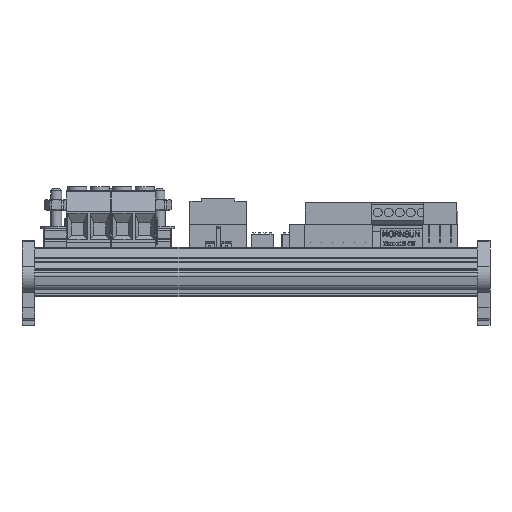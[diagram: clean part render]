
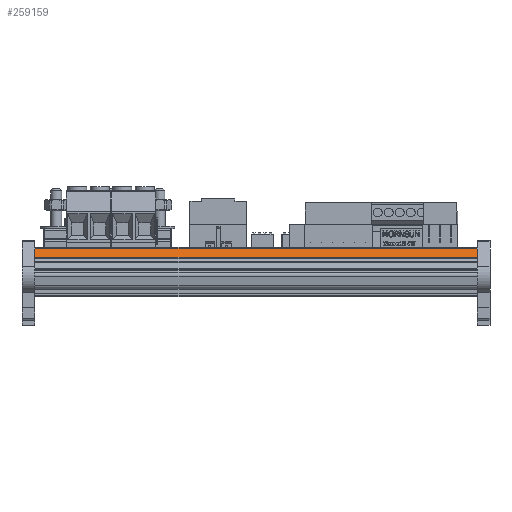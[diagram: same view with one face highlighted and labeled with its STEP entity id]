
A CAD part, front view. The second image highlights one B-rep face of the part: STEP entity #259159.
In plain terms, the highlighted free-form (B-spline) face has degree [1, 1] with [2, 2] control points.
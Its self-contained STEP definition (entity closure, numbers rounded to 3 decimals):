
#249476 = B_SPLINE_SURFACE_WITH_KNOTS('',1,1,(
    (#249477,#249478)
    ,(#249479,#249480
    )),.UNSPECIFIED.,.F.,.F.,.F.,(2,2),(2,2),(-112.497,
    8.897),(-17.3,5.1),.PIECEWISE_BEZIER_KNOTS.);
#249477 = CARTESIAN_POINT('',(60.697,-0.55,104.823));
#249478 = CARTESIAN_POINT('',(60.697,21.85,104.823));
#249479 = CARTESIAN_POINT('',(-60.697,-0.55,104.823));
#249480 = CARTESIAN_POINT('',(-60.697,21.85,104.823));
#249530 = B_SPLINE_SURFACE_WITH_KNOTS('',1,1,(
    (#249531,#249532)
    ,(#249533,#249534
    )),.UNSPECIFIED.,.F.,.F.,.F.,(2,2),(2,2),(-112.497,
    8.897),(-17.3,5.1),.PIECEWISE_BEZIER_KNOTS.);
#249531 = CARTESIAN_POINT('',(60.697,-0.55,-103.146));
#249532 = CARTESIAN_POINT('',(60.697,21.85,-103.146));
#249533 = CARTESIAN_POINT('',(-60.697,-0.55,-103.146));
#249534 = CARTESIAN_POINT('',(-60.697,21.85,-103.146));
#251667 = VERTEX_POINT('',#251668);
#251668 = CARTESIAN_POINT('',(55.318,21.516,
    -103.146));
#251688 = ( BOUNDED_SURFACE() B_SPLINE_SURFACE(2,1,(
    (#251689,#251690)
    ,(#251691,#251692)
    ,(#251693,#251694
)),.UNSPECIFIED.,.F.,.F.,.F.) B_SPLINE_SURFACE_WITH_KNOTS((3,3),(2,2),(
    1.569,2.802),(-2.,60.),.PIECEWISE_BEZIER_KNOTS.) 
GEOMETRIC_REPRESENTATION_ITEM() RATIONAL_B_SPLINE_SURFACE((
    (1.,1.)
    ,(0.816,0.816)
,(1.,1.))) REPRESENTATION_ITEM('') SURFACE() );
#251689 = CARTESIAN_POINT('',(54.845,21.849,104.823
    ));
#251690 = CARTESIAN_POINT('',(54.845,21.849,
    -103.146));
#251691 = CARTESIAN_POINT('',(55.2,21.85,104.823));
#251692 = CARTESIAN_POINT('',(55.2,21.85,-103.146));
#251693 = CARTESIAN_POINT('',(55.318,21.516,104.823
    ));
#251694 = CARTESIAN_POINT('',(55.318,21.516,
    -103.146));
#251702 = EDGE_CURVE('',#251667,#251703,#251705,.T.);
#251703 = VERTEX_POINT('',#251704);
#251704 = CARTESIAN_POINT('',(56.765,17.416,
    -103.146));
#251705 = SURFACE_CURVE('',#251706,(#251709,#251716),.PCURVE_S1.);
#251706 = B_SPLINE_CURVE_WITH_KNOTS('',1,(#251707,#251708),
  .UNSPECIFIED.,.F.,.F.,(2,2),(-5.054,-0.707),
  .PIECEWISE_BEZIER_KNOTS.);
#251707 = CARTESIAN_POINT('',(55.318,21.516,
    -103.146));
#251708 = CARTESIAN_POINT('',(56.765,17.416,
    -103.146));
#251709 = PCURVE('',#249530,#251710);
#251710 = DEFINITIONAL_REPRESENTATION('',(#251711),#251715);
#251711 = B_SPLINE_CURVE_WITH_KNOTS('',2,(#251712,#251713,#251714),
  .UNSPECIFIED.,.F.,.F.,(3,3),(-5.054,-0.707),
  .PIECEWISE_BEZIER_KNOTS.);
#251712 = CARTESIAN_POINT('',(-107.118,4.766));
#251713 = CARTESIAN_POINT('',(-107.841,2.716));
#251714 = CARTESIAN_POINT('',(-108.565,0.666));
#251715 = ( GEOMETRIC_REPRESENTATION_CONTEXT(2) 
PARAMETRIC_REPRESENTATION_CONTEXT() REPRESENTATION_CONTEXT('2D SPACE',''
  ) );
#251716 = PCURVE('',#251717,#251722);
#251717 = B_SPLINE_SURFACE_WITH_KNOTS('',1,1,(
    (#251718,#251719)
    ,(#251720,#251721
    )),.UNSPECIFIED.,.F.,.F.,.F.,(2,2),(2,2),(-5.054,
    -0.707),(-2.,60.),.PIECEWISE_BEZIER_KNOTS.);
#251718 = CARTESIAN_POINT('',(55.318,21.516,104.823
    ));
#251719 = CARTESIAN_POINT('',(55.318,21.516,
    -103.146));
#251720 = CARTESIAN_POINT('',(56.765,17.416,104.823
    ));
#251721 = CARTESIAN_POINT('',(56.765,17.416,
    -103.146));
#251722 = DEFINITIONAL_REPRESENTATION('',(#251723),#251727);
#251723 = B_SPLINE_CURVE_WITH_KNOTS('',2,(#251724,#251725,#251726),
  .UNSPECIFIED.,.F.,.F.,(3,3),(-5.054,-0.707),
  .PIECEWISE_BEZIER_KNOTS.);
#251724 = CARTESIAN_POINT('',(-5.054,60.));
#251725 = CARTESIAN_POINT('',(-2.88,60.));
#251726 = CARTESIAN_POINT('',(-0.707,60.));
#251727 = ( GEOMETRIC_REPRESENTATION_CONTEXT(2) 
PARAMETRIC_REPRESENTATION_CONTEXT() REPRESENTATION_CONTEXT('2D SPACE',''
  ) );
#251757 = ( BOUNDED_SURFACE() B_SPLINE_SURFACE(2,1,(
    (#251758,#251759)
    ,(#251760,#251761)
    ,(#251762,#251763
)),.UNSPECIFIED.,.F.,.F.,.F.) B_SPLINE_SURFACE_WITH_KNOTS((3,3),(2,2),(
    2.802,4.712),(-2.,60.),.PIECEWISE_BEZIER_KNOTS.) 
GEOMETRIC_REPRESENTATION_ITEM() RATIONAL_B_SPLINE_SURFACE((
    (1.,1.)
    ,(0.578,0.578)
,(1.,1.))) REPRESENTATION_ITEM('') SURFACE() );
#251758 = CARTESIAN_POINT('',(56.765,17.416,104.823
    ));
#251759 = CARTESIAN_POINT('',(56.765,17.416,
    -103.146));
#251760 = CARTESIAN_POINT('',(57.,16.75,104.823));
#251761 = CARTESIAN_POINT('',(57.,16.75,-103.146));
#251762 = CARTESIAN_POINT('',(56.293,16.75,104.823));
#251763 = CARTESIAN_POINT('',(56.293,16.75,-103.146));
#254553 = VERTEX_POINT('',#254554);
#254554 = CARTESIAN_POINT('',(56.765,17.416,104.823
    ));
#254587 = EDGE_CURVE('',#254588,#254553,#254590,.T.);
#254588 = VERTEX_POINT('',#254589);
#254589 = CARTESIAN_POINT('',(55.318,21.516,104.823
    ));
#254590 = SURFACE_CURVE('',#254591,(#254594,#254601),.PCURVE_S1.);
#254591 = B_SPLINE_CURVE_WITH_KNOTS('',1,(#254592,#254593),
  .UNSPECIFIED.,.F.,.F.,(2,2),(-5.054,-0.707),
  .PIECEWISE_BEZIER_KNOTS.);
#254592 = CARTESIAN_POINT('',(55.318,21.516,104.823
    ));
#254593 = CARTESIAN_POINT('',(56.765,17.416,104.823
    ));
#254594 = PCURVE('',#249476,#254595);
#254595 = DEFINITIONAL_REPRESENTATION('',(#254596),#254600);
#254596 = B_SPLINE_CURVE_WITH_KNOTS('',2,(#254597,#254598,#254599),
  .UNSPECIFIED.,.F.,.F.,(3,3),(-5.054,-0.707),
  .PIECEWISE_BEZIER_KNOTS.);
#254597 = CARTESIAN_POINT('',(-107.118,4.766));
#254598 = CARTESIAN_POINT('',(-107.841,2.716));
#254599 = CARTESIAN_POINT('',(-108.565,0.666));
#254600 = ( GEOMETRIC_REPRESENTATION_CONTEXT(2) 
PARAMETRIC_REPRESENTATION_CONTEXT() REPRESENTATION_CONTEXT('2D SPACE',''
  ) );
#254601 = PCURVE('',#251717,#254602);
#254602 = DEFINITIONAL_REPRESENTATION('',(#254603),#254607);
#254603 = B_SPLINE_CURVE_WITH_KNOTS('',2,(#254604,#254605,#254606),
  .UNSPECIFIED.,.F.,.F.,(3,3),(-5.054,-0.707),
  .PIECEWISE_BEZIER_KNOTS.);
#254604 = CARTESIAN_POINT('',(-5.054,-2.));
#254605 = CARTESIAN_POINT('',(-2.88,-2.));
#254606 = CARTESIAN_POINT('',(-0.707,-2.));
#254607 = ( GEOMETRIC_REPRESENTATION_CONTEXT(2) 
PARAMETRIC_REPRESENTATION_CONTEXT() REPRESENTATION_CONTEXT('2D SPACE',''
  ) );
#257689 = EDGE_CURVE('',#251667,#254588,#257690,.T.);
#257690 = SURFACE_CURVE('',#257691,(#257694,#257701),.PCURVE_S1.);
#257691 = B_SPLINE_CURVE_WITH_KNOTS('',1,(#257692,#257693),
  .UNSPECIFIED.,.F.,.F.,(2,2),(-60.,2.),.PIECEWISE_BEZIER_KNOTS.);
#257692 = CARTESIAN_POINT('',(55.318,21.516,
    -103.146));
#257693 = CARTESIAN_POINT('',(55.318,21.516,104.823
    ));
#257694 = PCURVE('',#251688,#257695);
#257695 = DEFINITIONAL_REPRESENTATION('',(#257696),#257700);
#257696 = B_SPLINE_CURVE_WITH_KNOTS('',2,(#257697,#257698,#257699),
  .UNSPECIFIED.,.F.,.F.,(3,3),(-60.,2.),.PIECEWISE_BEZIER_KNOTS.);
#257697 = CARTESIAN_POINT('',(2.802,60.));
#257698 = CARTESIAN_POINT('',(2.802,29.));
#257699 = CARTESIAN_POINT('',(2.802,-2.));
#257700 = ( GEOMETRIC_REPRESENTATION_CONTEXT(2) 
PARAMETRIC_REPRESENTATION_CONTEXT() REPRESENTATION_CONTEXT('2D SPACE',''
  ) );
#257701 = PCURVE('',#251717,#257702);
#257702 = DEFINITIONAL_REPRESENTATION('',(#257703),#257707);
#257703 = B_SPLINE_CURVE_WITH_KNOTS('',2,(#257704,#257705,#257706),
  .UNSPECIFIED.,.F.,.F.,(3,3),(-60.,2.),.PIECEWISE_BEZIER_KNOTS.);
#257704 = CARTESIAN_POINT('',(-5.054,60.));
#257705 = CARTESIAN_POINT('',(-5.054,29.));
#257706 = CARTESIAN_POINT('',(-5.054,-2.));
#257707 = ( GEOMETRIC_REPRESENTATION_CONTEXT(2) 
PARAMETRIC_REPRESENTATION_CONTEXT() REPRESENTATION_CONTEXT('2D SPACE',''
  ) );
#259112 = EDGE_CURVE('',#251703,#254553,#259113,.T.);
#259113 = SURFACE_CURVE('',#259114,(#259117,#259124),.PCURVE_S1.);
#259114 = B_SPLINE_CURVE_WITH_KNOTS('',1,(#259115,#259116),
  .UNSPECIFIED.,.F.,.F.,(2,2),(-60.,2.),.PIECEWISE_BEZIER_KNOTS.);
#259115 = CARTESIAN_POINT('',(56.765,17.416,
    -103.146));
#259116 = CARTESIAN_POINT('',(56.765,17.416,104.823
    ));
#259117 = PCURVE('',#251757,#259118);
#259118 = DEFINITIONAL_REPRESENTATION('',(#259119),#259123);
#259119 = B_SPLINE_CURVE_WITH_KNOTS('',2,(#259120,#259121,#259122),
  .UNSPECIFIED.,.F.,.F.,(3,3),(-60.,2.),.PIECEWISE_BEZIER_KNOTS.);
#259120 = CARTESIAN_POINT('',(2.802,60.));
#259121 = CARTESIAN_POINT('',(2.802,29.));
#259122 = CARTESIAN_POINT('',(2.802,-2.));
#259123 = ( GEOMETRIC_REPRESENTATION_CONTEXT(2) 
PARAMETRIC_REPRESENTATION_CONTEXT() REPRESENTATION_CONTEXT('2D SPACE',''
  ) );
#259124 = PCURVE('',#251717,#259125);
#259125 = DEFINITIONAL_REPRESENTATION('',(#259126),#259130);
#259126 = B_SPLINE_CURVE_WITH_KNOTS('',2,(#259127,#259128,#259129),
  .UNSPECIFIED.,.F.,.F.,(3,3),(-60.,2.),.PIECEWISE_BEZIER_KNOTS.);
#259127 = CARTESIAN_POINT('',(-0.707,60.));
#259128 = CARTESIAN_POINT('',(-0.707,29.));
#259129 = CARTESIAN_POINT('',(-0.707,-2.));
#259130 = ( GEOMETRIC_REPRESENTATION_CONTEXT(2) 
PARAMETRIC_REPRESENTATION_CONTEXT() REPRESENTATION_CONTEXT('2D SPACE',''
  ) );
#259159 = ADVANCED_FACE('',(#259160),#251717,.T.);
#259160 = FACE_BOUND('',#259161,.T.);
#259161 = EDGE_LOOP('',(#259162,#259163,#259164,#259165));
#259162 = ORIENTED_EDGE('',*,*,#254587,.T.);
#259163 = ORIENTED_EDGE('',*,*,#259112,.F.);
#259164 = ORIENTED_EDGE('',*,*,#251702,.F.);
#259165 = ORIENTED_EDGE('',*,*,#257689,.T.);
